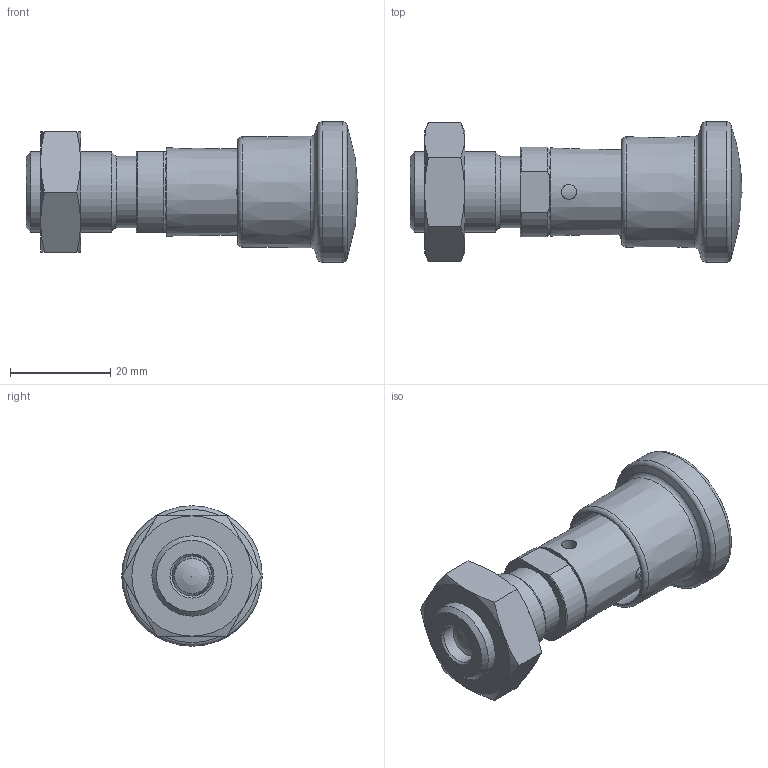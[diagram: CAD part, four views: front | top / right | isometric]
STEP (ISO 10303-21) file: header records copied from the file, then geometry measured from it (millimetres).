
FILE_DESCRIPTION( ( 'STEP AP203' ), '1' );
FILE_NAME( 'C:/Temp/Ganter_Step_05_03_2020/data/3_1/gn816_1/gn_816_1_ak/Locking plunger GN 816.1-8-M16x1,5-AK (deactivated).stp', '2020-03-12T08:56:10', ( 'License CC BY-ND 4.0' ), ( 'CADENAS' ), ' ', 'PARTsolutions', ' ' );
FILE_SCHEMA( ( 'CONFIG_CONTROL_DESIGN' ) );
Length unit declared in the file: millimetre
Products named in the file (4): Locking plunger GN 816.1-8-M16x1,5-AK (deactivated); _GN 816.1-8-M16x1,5-A(0)-a2; _GN 816.1-8-M16x1,5-A-a1; _Lock nut ISO 8675 GN 816-8-M16x1,5-AK
Assembly tree (3 placements, depth 2):
  Locking plunger GN 816.1-8-M16x1,5-AK (deactivated)
    _GN 816.1-8-M16x1,5-A(0)-a2
    _GN 816.1-8-M16x1,5-A-a1
    _Lock nut ISO 8675 GN 816-8-M16x1,5-AK
Bounding box: 66.2 x 28 x 28 mm (x, y, z)
Volume: 16924.1 mm3; surface area: 12059.1 mm2
Topology: 3 solids, 3 shells, 77 faces, 161 edges, 98 vertices
Faces by surface type: cone 31, plane 22, cylinder 16, torus 6, sphere 2
Full cylindrical faces by diameter (mm): 2.9 x1, 3 x2, 8 x2, 11 x1, 11.1 x1, 14.2 x2, 14.376 x1, 16 x1, 18.2 x1, 20.017 x1, 28 x1
Entity records: 2279 total; most frequent: CARTESIAN_POINT 702, DIRECTION 306, ORIENTED_EDGE 232, AXIS2_PLACEMENT_3D 146, EDGE_LOOP 130, EDGE_CURVE 116, FACE_OUTER_BOUND 97, VERTEX_POINT 92
